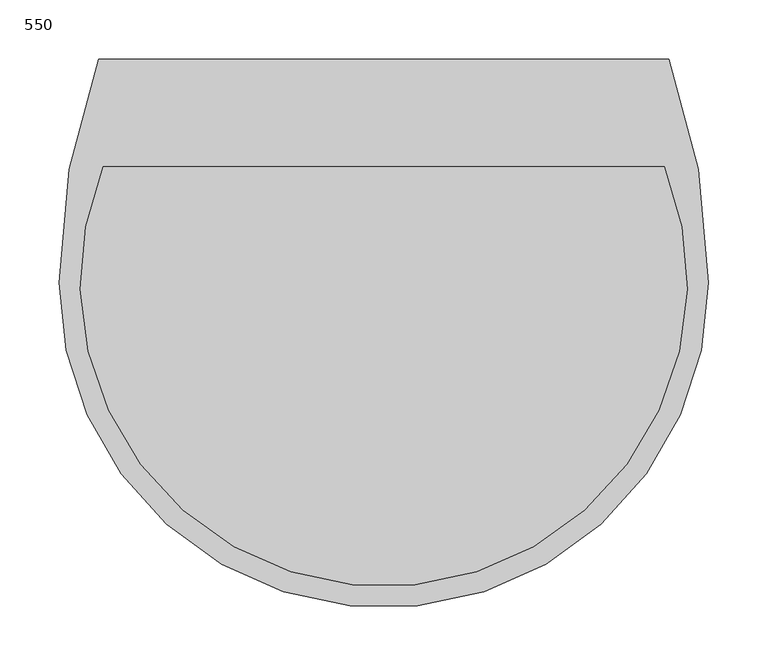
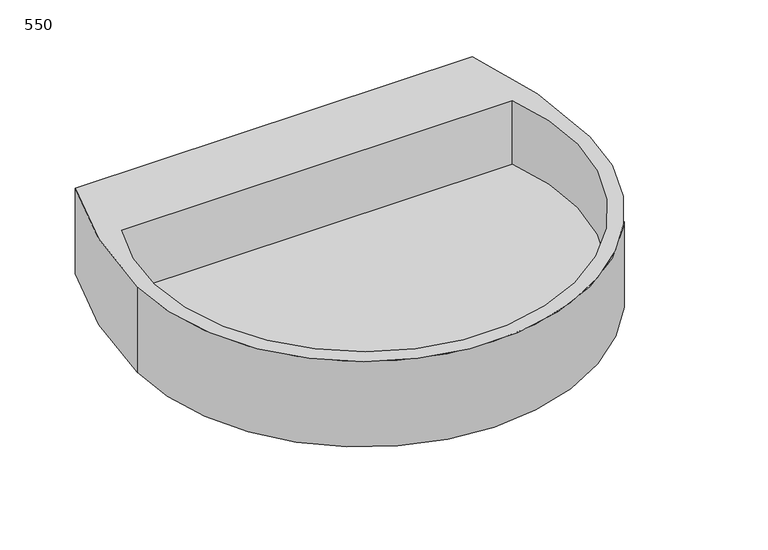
"""IFC4 building model written with IfcOpenShell, lengths in millimetres: flow terminal geometry, Sanitary_Sinks_Zeppelin-Rental-GmbH_Round_550 : 550."""

from ifc_helpers import new_model, si_unit, frame, origin, place, context, project, spatial, polyline, circle_curve, source, transform, mapped, element, save
from ifc_brep_helpers import plane_surface, cylinder_surface, revolved_surface, advanced_brep


def flow_terminal_550_995b3c18(model_context):
    return source(origin(), model_context, "Body", "AdvancedBrep", [
        advanced_brep(
        [(400.0, -241.2, 850.0), (366.4333064, -52.0, 850.0), (-116.4333064, -52.0, 850.0), (-150.0, -241.2, 850.0), (362.5270332, -143.0679028, 850.0), (-112.5270332, -143.0679028, 850.0), (400.0, -241.2, 740.0), (-150.0, -241.2, 740.0), (-116.4333064, -52.0, 740.0), (366.4333064, -52.0, 740.0), (362.5270332, -143.0679028, 768.1609063), (-112.5270332, -143.0679028, 768.1609063)],
        [
            (0, 1, circle_curve(frame((-150.0, -241.2, 850.0), z_axis=(0.0, 0.0, 1.0), x_axis=(1.0, 0.0, 0.0)), 550.0)),
            (1, 2),
            (2, 3, circle_curve(frame((400.0, -241.2, 850.0), z_axis=(0.0, 0.0, 1.0), x_axis=(1.0, 0.0, 0.0)), 550.0)),
            (3, 0, circle_curve(frame((125.0, -241.2, 850.0), z_axis=(0.0, 0.0, 1.0), x_axis=(1.0, 0.0, 0.0)), 275.0)),
            (4, 5, circle_curve(frame((125.0, -241.2, 850.0), z_axis=(0.0, 0.0, -1.0), x_axis=(1.0, 0.0, 0.0)), 257.0)),
            (5, 4),
            (6, 7, circle_curve(frame((125.0, -241.2, 740.0), z_axis=(0.0, 0.0, -1.0), x_axis=(1.0, 0.0, 0.0)), 275.0)),
            (7, 8, circle_curve(frame((400.0, -241.2, 740.0), z_axis=(0.0, 0.0, -1.0), x_axis=(1.0, 0.0, 0.0)), 550.0)),
            (8, 9),
            (9, 6, circle_curve(frame((-150.0, -241.2, 740.0), z_axis=(0.0, 0.0, -1.0), x_axis=(1.0, 0.0, 0.0)), 550.0)),
            (10, 11),
            (11, 10, circle_curve(frame((125.0, -241.2, 768.1609063), z_axis=(0.0, 0.0, 1.0), x_axis=(1.0, 0.0, 0.0)), 257.0)),
            (0, 6),
            (9, 1),
            (8, 2),
            (7, 3),
            (11, 5),
            (4, 10),
        ],
        [
            plane_surface(frame((400.0, -241.2, 850.0), z_axis=(0.0, 0.0, 1.0), x_axis=(0.0, 1.0, 0.0))),
            plane_surface(frame((400.0, -241.2, 740.0), z_axis=(0.0, 0.0, -1.0), x_axis=(0.0, -1.0, 0.0))),
            plane_surface(frame((382.0, -241.2, 768.1609063), z_axis=(0.0, 0.0, 1.0), x_axis=(0.0, -1.0, 0.0))),
            cylinder_surface(frame((-150.0, -241.2, 740.0), z_axis=(0.0, 0.0, 1.0), x_axis=(1.0, 0.0, 0.0)), 550.0),
            plane_surface(frame((366.4333064, -52.0, 850.0), z_axis=(0.0, 1.0, 0.0), x_axis=(0.0, 0.0, -1.0))),
            cylinder_surface(frame((400.0, -241.2, 740.0), z_axis=(0.0, 0.0, 1.0), x_axis=(1.0, 0.0, 0.0)), 550.0),
            cylinder_surface(frame((125.0, -241.2, 740.0), z_axis=(0.0, 0.0, 1.0), x_axis=(1.0, 0.0, 0.0)), 275.0),
            revolved_surface(polyline([(382.0, -241.2, 768.1609063), (382.0, -241.2, 850.0)]), (125.0, -241.2, 864.30159), (0.0, 0.0, -1.0)),
            plane_surface(frame((-112.5270332, -143.0679028, 768.1609063), z_axis=(0.0, -1.0, 0.0), x_axis=(0.0, 0.0, 1.0))),
        ],
        [
            (0, [[1, 2, 3, 4], [5, 6]]),
            (1, [[7, 8, 9, 10]]),
            (2, [[11, 12]]),
            (3, [[-1, 13, -10, 14]]),
            (4, [[-2, -14, -9, 15]]),
            (5, [[-3, -15, -8, 16]]),
            (6, [[-4, -16, -7, -13]]),
            (7, [[-12, 17, -5, 18]]),
            (8, [[-11, -18, -6, -17]]),
        ],
    ),
    ])


if __name__ == "__main__":
    model = new_model("IFC4")
    model_context = context("Model", 3, world=origin())
    ifc_project = project(units=[si_unit("LENGTHUNIT", "METRE", prefix="MILLI")], contexts=[model_context])
    site = spatial("IfcSite", under=ifc_project)
    building = spatial("IfcBuilding", under=site)
    placement = place(None, origin())
    flow_terminal_550_shape = flow_terminal_550_995b3c18(model_context)
    element("IfcFlowTerminal", 1, ObjectType="Sanitary_Sinks_Zeppelin-Rental-GmbH_Round_550 : 550", at=placement, inside=building, context=model_context, shape_type="MappedRepresentation", body=[
        mapped(flow_terminal_550_shape, transform((0.0, 0.0, 0.0), x_axis=(1.0, 0.0, 0.0), y_axis=(0.0, 1.0, 0.0), z_axis=(0.0, 0.0, 1.0))),
    ])
    save(model, "model.ifc")
